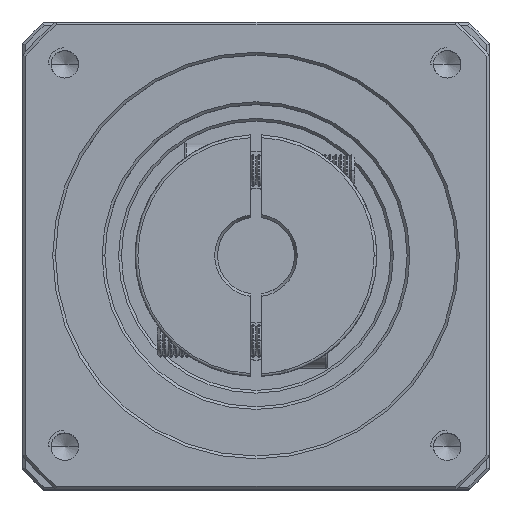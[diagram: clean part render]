
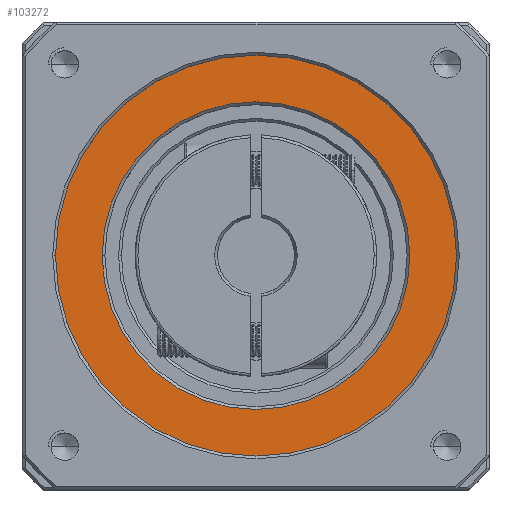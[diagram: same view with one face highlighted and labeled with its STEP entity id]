
A CAD part, top view. The second image highlights one B-rep face of the part: STEP entity #103272.
In plain terms, the highlighted planar face has unit normal (0, 0, 1).
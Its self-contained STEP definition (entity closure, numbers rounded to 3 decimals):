
#733 = CARTESIAN_POINT ( 'NONE',  ( -93.575, 34.038, 33.892 ) ) ;
#3985 = DIRECTION ( 'NONE',  ( 1., 0., 0. ) ) ;
#5546 = EDGE_CURVE ( 'NONE', #92117, #16477, #57514, .T. ) ;
#9846 = DIRECTION ( 'NONE',  ( 1., 0., 0. ) ) ;
#10785 = FACE_BOUND ( 'NONE', #28119, .T. ) ;
#14259 = AXIS2_PLACEMENT_3D ( 'NONE', #733, #63636, #9846 ) ;
#15980 = DIRECTION ( 'NONE',  ( 0., 0., -1. ) ) ;
#16477 = VERTEX_POINT ( 'NONE', #104492 ) ;
#17931 = VERTEX_POINT ( 'NONE', #67820 ) ;
#20628 = CARTESIAN_POINT ( 'NONE',  ( -65.575, 34.038, 33.892 ) ) ;
#24448 = AXIS2_PLACEMENT_3D ( 'NONE', #43120, #105650, #52069 ) ;
#25580 = ORIENTED_EDGE ( 'NONE', *, *, #82023, .T. ) ;
#28119 = EDGE_LOOP ( 'NONE', ( #25580, #73263 ) ) ;
#34820 = FACE_OUTER_BOUND ( 'NONE', #87379, .T. ) ;
#36143 = EDGE_CURVE ( 'NONE', #17931, #52543, #75503, .T. ) ;
#37649 = AXIS2_PLACEMENT_3D ( 'NONE', #111376, #57836, #3985 ) ;
#38735 = CARTESIAN_POINT ( 'NONE',  ( -130.075, 34.038, 33.892 ) ) ;
#42620 = AXIS2_PLACEMENT_3D ( 'NONE', #49094, #111535, #57990 ) ;
#43120 = CARTESIAN_POINT ( 'NONE',  ( -93.575, 34.038, 33.892 ) ) ;
#49094 = CARTESIAN_POINT ( 'NONE',  ( -93.575, 34.038, 33.892 ) ) ;
#52069 = DIRECTION ( 'NONE',  ( 1., 0., 0. ) ) ;
#52543 = VERTEX_POINT ( 'NONE', #20628 ) ;
#57514 = CIRCLE ( 'NONE', #14259, 36.5 ) ;
#57836 = DIRECTION ( 'NONE',  ( 0., 0., -1. ) ) ;
#57990 = DIRECTION ( 'NONE',  ( 1., 0., 0. ) ) ;
#62007 = ORIENTED_EDGE ( 'NONE', *, *, #5546, .T. ) ;
#63636 = DIRECTION ( 'NONE',  ( 0., 0., 1. ) ) ;
#67820 = CARTESIAN_POINT ( 'NONE',  ( -121.575, 34.038, 33.892 ) ) ;
#69668 = PLANE ( 'NONE',  #24448 ) ;
#69741 = CARTESIAN_POINT ( 'NONE',  ( -93.575, 34.038, 33.892 ) ) ;
#73263 = ORIENTED_EDGE ( 'NONE', *, *, #36143, .T. ) ;
#75503 = CIRCLE ( 'NONE', #37649, 28. ) ;
#78731 = DIRECTION ( 'NONE',  ( 1., 0., 0. ) ) ;
#82023 = EDGE_CURVE ( 'NONE', #52543, #17931, #96275, .T. ) ;
#87379 = EDGE_LOOP ( 'NONE', ( #106827, #62007 ) ) ;
#89846 = AXIS2_PLACEMENT_3D ( 'NONE', #69741, #15980, #78731 ) ;
#92117 = VERTEX_POINT ( 'NONE', #38735 ) ;
#92843 = EDGE_CURVE ( 'NONE', #16477, #92117, #104181, .T. ) ;
#96275 = CIRCLE ( 'NONE', #89846, 28. ) ;
#103272 = ADVANCED_FACE ( 'NONE', ( #34820, #10785 ), #69668, .T. ) ;
#104181 = CIRCLE ( 'NONE', #42620, 36.5 ) ;
#104492 = CARTESIAN_POINT ( 'NONE',  ( -57.075, 34.038, 33.892 ) ) ;
#105650 = DIRECTION ( 'NONE',  ( 0., 0., 1. ) ) ;
#106827 = ORIENTED_EDGE ( 'NONE', *, *, #92843, .T. ) ;
#111376 = CARTESIAN_POINT ( 'NONE',  ( -93.575, 34.038, 33.892 ) ) ;
#111535 = DIRECTION ( 'NONE',  ( 0., 0., 1. ) ) ;
